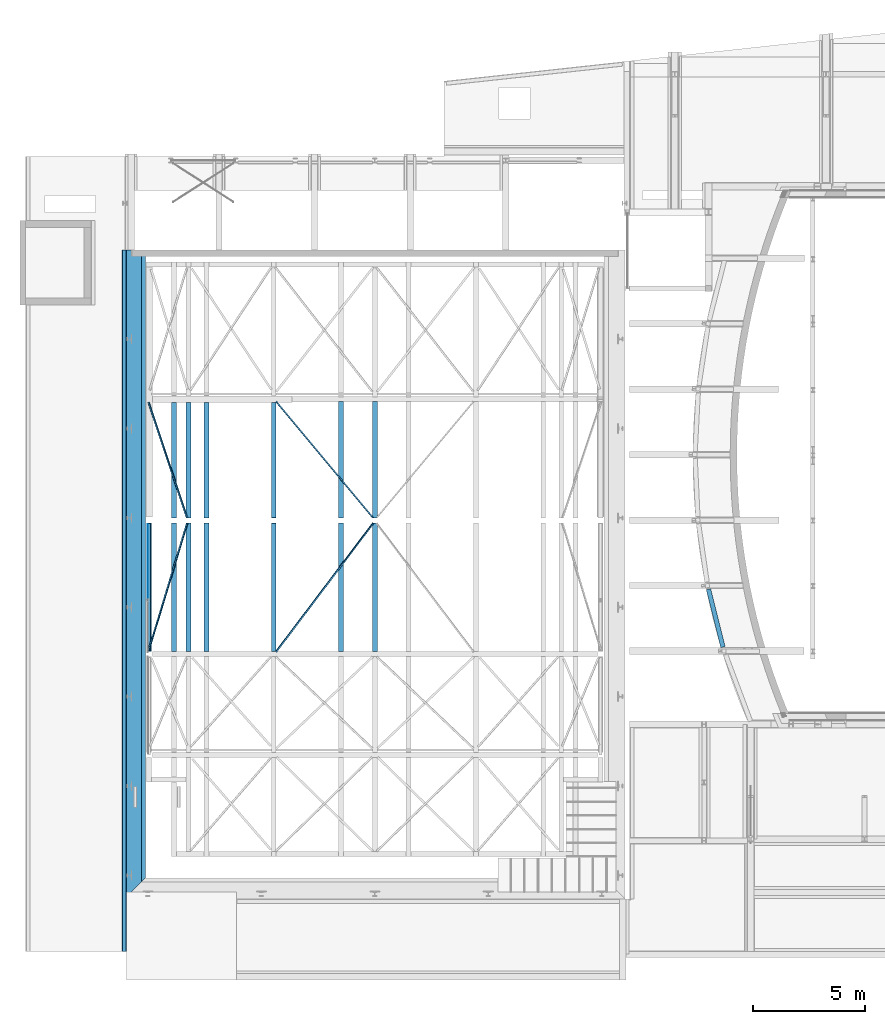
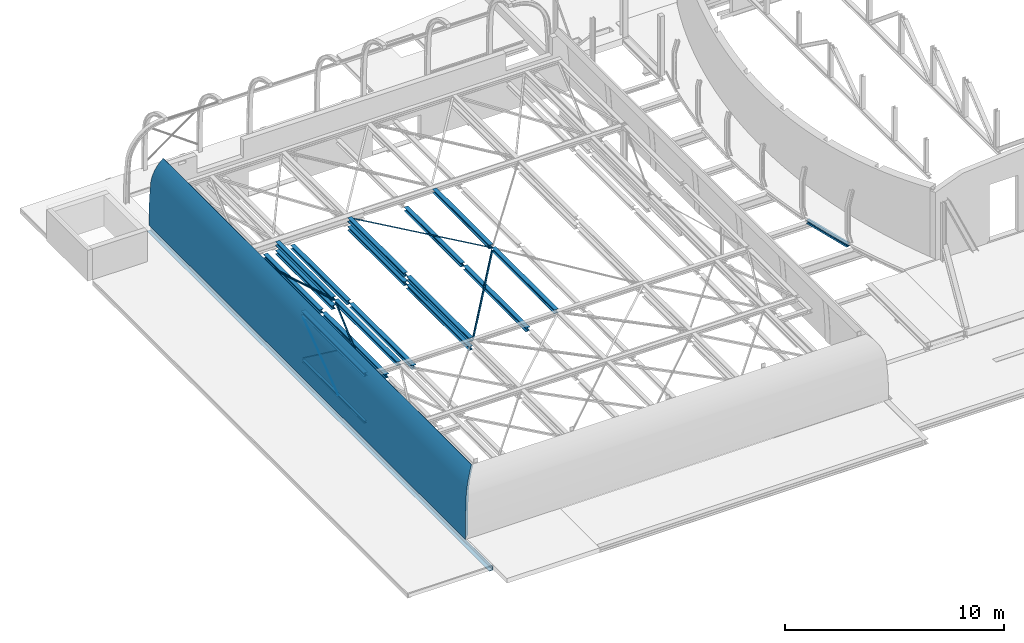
# One storey, part 14 of 38: 26 beams.
"""IFC2X3 building model written with IfcOpenShell, lengths in millimetres."""

import ifcopenshell
import ifcopenshell.guid

model = None  # the IFC model being written
_history = None  # IfcOwnerHistory: only IFC2X3 demands one
_inside = {}  # id of a spatial element -> (the spatial element, [elements in it])
_under = {}  # id of a project, library or spatial element -> (it, [spatial elements below it])
_declared = {}  # id of a project -> (the project, [libraries it declares])
_typed = {}  # id of a type object -> (the type object, [elements of that type])
_made_of = {}  # id of a material, layer set ... -> (it, [elements and type objects made of it])


def new_model(schema):
    """Start an empty IFC model of exactly this schema.

    Asked for "IFC4X3", IfcOpenShell would pick the latest addendum, in which some entities
    have other attributes; the version numbers below select the first issue.
    IFC2X3 requires an IfcOwnerHistory on every rooted entity: one is made here for all.
    """
    global model, _history
    if schema == "IFC4X3":
        model = ifcopenshell.file(schema_version=(4, 3, 0, 0))
    else:
        model = ifcopenshell.file(schema=schema)
    _inside.clear()
    _under.clear()
    _declared.clear()
    _typed.clear()
    _made_of.clear()
    _history = None
    if model.schema == "IFC2X3":
        org = make("IfcOrganization", Name="unknown")
        user = make(
            "IfcPersonAndOrganization",
            ThePerson=make("IfcPerson", FamilyName="unknown"),
            TheOrganization=org,
        )
        app = make(
            "IfcApplication",
            ApplicationDeveloper=org,
            Version="unknown",
            ApplicationFullName="unknown",
            ApplicationIdentifier="unknown",
        )
        _history = make(
            "IfcOwnerHistory",
            OwningUser=user,
            OwningApplication=app,
            ChangeAction="ADDED",
            CreationDate=0,
        )
    return model


def make(cls, **values):
    """One entity of the class cls with the attributes given. An attribute that is None is left unset."""
    return model.create_entity(
        cls, **{name: value for name, value in values.items() if value is not None}
    )


def entity(cls, *values):
    """Any entity or typed value of the class cls, its attributes in the order of the schema. None: left unset."""
    e = model.create_entity(cls)
    for i, value in enumerate(values):
        if value is not None:
            e[i] = value
    return e


def rooted(cls, **values):
    """An entity with a GlobalId (a new one), such as an element, a storey or a relation."""
    return make(cls, GlobalId=ifcopenshell.guid.new(), OwnerHistory=_history, **values)


def si_unit(unit_type, name, prefix=None):
    """IfcSIUnit, for example si_unit("LENGTHUNIT", "METRE", prefix="MILLI")."""
    return make("IfcSIUnit", UnitType=unit_type, Prefix=prefix, Name=name)


def converted_unit(unit_type, name, factor, base, dimensions=None, offset=None):
    """IfcConversionBasedUnit, such as the inch: factor (a typed value) times the base unit."""
    return make(
        "IfcConversionBasedUnit"
        if offset is None
        else "IfcConversionBasedUnitWithOffset",
        ConversionOffset=offset,
        Dimensions=None
        if dimensions is None
        else entity("IfcDimensionalExponents", *dimensions),
        UnitType=unit_type,
        Name=name,
        ConversionFactor=make(
            "IfcMeasureWithUnit", ValueComponent=factor, UnitComponent=base
        ),
    )


def derived_unit(unit_type, elements):
    """IfcDerivedUnit: a product of units, each with its exponent."""
    return make(
        "IfcDerivedUnit",
        Elements=[
            make("IfcDerivedUnitElement", Unit=unit, Exponent=power)
            for unit, power in elements
        ],
        UnitType=unit_type,
    )


def assignment(units):
    """IfcUnitAssignment: the units of a project."""
    return None if units is None else make("IfcUnitAssignment", Units=units)


def point(xyz):
    """IfcCartesianPoint."""
    return None if xyz is None else make("IfcCartesianPoint", Coordinates=xyz)


def direction(xyz):
    """IfcDirection."""
    return None if xyz is None else make("IfcDirection", DirectionRatios=xyz)


def frame(location, z_axis=None, x_axis=None):
    """IfcAxis2Placement3D, a coordinate frame: its origin and axes. An axis left out is left unset."""
    return make(
        "IfcAxis2Placement3D",
        Location=point(location),
        Axis=direction(z_axis),
        RefDirection=direction(x_axis),
    )


def frame_2d(location, x_axis=None):
    """IfcAxis2Placement2D, a coordinate frame in the plane: its origin and x axis."""
    return make(
        "IfcAxis2Placement2D", Location=point(location), RefDirection=direction(x_axis)
    )


def origin():
    """The frame at (0, 0, 0) with its axes left unset."""
    return frame((0.0, 0.0, 0.0))


def origin_2d_with_axis():
    """The frame at (0, 0) in the plane with the x axis (1, 0) written out."""
    return frame_2d((0.0, 0.0), x_axis=(1.0, 0.0))


def place(relative_to, where):
    """IfcLocalPlacement: puts the frame where relative to a parent placement (None: the world)."""
    return make(
        "IfcLocalPlacement", PlacementRelTo=relative_to, RelativePlacement=where
    )


def context(
    kind, dimensions, precision=None, world=None, true_north=None, identifier=None
):
    """IfcGeometricRepresentationContext, for example the 3D "Model" context."""
    return make(
        "IfcGeometricRepresentationContext",
        ContextIdentifier=identifier,
        ContextType=kind,
        CoordinateSpaceDimension=dimensions,
        Precision=precision,
        WorldCoordinateSystem=world,
        TrueNorth=true_north,
    )


def subcontext(parent, identifier, kind, view, scale=None):
    """IfcGeometricRepresentationSubContext, for example "Body" below "Model"."""
    return make(
        "IfcGeometricRepresentationSubContext",
        ContextIdentifier=identifier,
        ContextType=kind,
        ParentContext=parent,
        TargetScale=scale,
        TargetView=view,
    )


def project(units=None, contexts=None):
    """IfcProject with its units and contexts."""
    return rooted(
        "IfcProject",
        Name="project",
        RepresentationContexts=contexts,
        UnitsInContext=assignment(units),
    )


def spatial(cls, under=None, at=None, **own):
    """A site, building, storey or space (cls), placed at a placement, below another one or the project."""
    s = rooted(cls, ObjectPlacement=at, **own)
    if under is not None:
        _under.setdefault(under.id(), (under, []))[1].append(s)
    return s


def polyline(points):
    """IfcPolyline through the points."""
    return make("IfcPolyline", Points=[point(p) for p in points])


def circle_curve(where, radius):
    """IfcCircle in the frame where."""
    return make("IfcCircle", Position=where, Radius=radius)


def parameter(value):
    """IfcParameterValue: where a trimmed curve begins or ends, as a parameter of its basis curve."""
    return model.create_entity("IfcParameterValue", value)


def trimmed(basis, trim1, trim2, sense, master):
    """IfcTrimmedCurve: the piece of a basis curve between two trims."""
    return make(
        "IfcTrimmedCurve",
        BasisCurve=basis,
        Trim1=trim1,
        Trim2=trim2,
        SenseAgreement=sense,
        MasterRepresentation=master,
    )


def segment(curve, same_sense, transition):
    """IfcCompositeCurveSegment."""
    return make(
        "IfcCompositeCurveSegment",
        Transition=transition,
        SameSense=same_sense,
        ParentCurve=curve,
    )


def composite_curve(segments, self_intersect=None):
    """IfcCompositeCurve: segments joined end to end."""
    return make("IfcCompositeCurve", Segments=segments, SelfIntersect=self_intersect)


def profile(cls, at=None, kind="AREA", **sizes):
    """A parametric profile (cls). Its sizes go by their IFC names, for example OverallWidth=200.0."""
    return make(cls, ProfileType=kind, Position=at, **sizes)


def rectangle(**sizes):
    """IfcRectangleProfileDef."""
    return profile("IfcRectangleProfileDef", **sizes)


def i_section(**sizes):
    """IfcIShapeProfileDef."""
    return profile("IfcIShapeProfileDef", **sizes)


def outline(outer, holes=None, kind="AREA"):
    """IfcArbitraryClosedProfileDef: a profile drawn as a closed curve; with holes, ...WithVoids."""
    if holes is None:
        return make("IfcArbitraryClosedProfileDef", ProfileType=kind, OuterCurve=outer)
    return make(
        "IfcArbitraryProfileDefWithVoids",
        ProfileType=kind,
        OuterCurve=outer,
        InnerCurves=holes,
    )


def extrude(swept, where, along, depth):
    """IfcExtrudedAreaSolid: the profile swept, set in the frame where, extruded along a direction by depth."""
    return make(
        "IfcExtrudedAreaSolid",
        SweptArea=swept,
        Position=where,
        ExtrudedDirection=direction(along),
        Depth=depth,
    )


def clip(a, b, op="DIFFERENCE"):
    """IfcBooleanClippingResult: the solid a cut by the half space b."""
    return make(
        "IfcBooleanClippingResult", Operator=op, FirstOperand=a, SecondOperand=b
    )


def halfspace(plane, agree):
    """IfcHalfSpaceSolid: all space on one side of the plane z = 0 of the frame plane."""
    return make(
        "IfcHalfSpaceSolid",
        BaseSurface=make("IfcPlane", Position=plane),
        AgreementFlag=agree,
    )


def shape(context_of_items, identifier, shape_type, items):
    """IfcShapeRepresentation: the items that make up one representation, for example the "Body"."""
    return make(
        "IfcShapeRepresentation",
        ContextOfItems=context_of_items,
        RepresentationIdentifier=identifier,
        RepresentationType=shape_type,
        Items=items,
    )


def material(Name=None, Category=None):
    """IfcMaterial."""
    return make("IfcMaterial", Name=Name, Category=Category)


def made_of(thing, what):
    """Note that an element or type object is made of a material, layer set ...; save() writes the relation."""
    if what is not None:
        _made_of.setdefault(what.id(), (what, []))[1].append(thing)
    return thing


def type_object(cls, material=None, **own):
    """A type object (cls), such as IfcWallType, which elements share."""
    return made_of(rooted(cls, **own), material)


def element(
    cls,
    number,
    at=None,
    inside=None,
    cuts=None,
    type_object=None,
    material=None,
    context=None,
    identifier="Body",
    shape_type=None,
    held_by="IfcProductDefinitionShape",
    body=None,
    shapes=None,
    **own,
):
    """One element of the class cls, such as IfcWall. Its Tag is "e" and its number.

    at: its placement. inside: the storey or other place that contains it. cuts: it is an
    opening in that element (IfcRelVoidsElement). A single representation is given by context,
    identifier, shape_type and body (its items); several are given by shapes. held_by: the class
    of the entity that holds the representations. save() writes the other relations.
    """
    e = rooted(cls, Tag="e%d" % number, ObjectPlacement=at, **own)
    if body is not None:
        shapes = [shape(context, identifier, shape_type, body)]
    if shapes is not None:
        e.Representation = make(held_by, Representations=shapes)
    if inside is not None:
        _inside.setdefault(inside.id(), (inside, []))[1].append(e)
    if cuts is not None:
        rooted(
            "IfcRelVoidsElement", RelatingBuildingElement=cuts, RelatedOpeningElement=e
        )
    if type_object is not None:
        _typed.setdefault(type_object.id(), (type_object, []))[1].append(e)
    return made_of(e, material)


def aggregate(whole, parts):
    """IfcRelAggregates: a whole, such as a stair, and the parts it consists of."""
    return rooted("IfcRelAggregates", RelatingObject=whole, RelatedObjects=parts)


def save(model, path):
    """Write the relations noted so far, then the file.

    IfcRelAggregates (storeys below a building ...), IfcRelContainedInSpatialStructure (elements
    in a storey), IfcRelDefinesByType, IfcRelAssociatesMaterial and IfcRelDeclares: one each for
    every whole, place, type object, material and project.
    """
    for whole, parts in _under.values():
        aggregate(whole, parts)
    for where, things in _inside.values():
        rooted(
            "IfcRelContainedInSpatialStructure",
            RelatedElements=things,
            RelatingStructure=where,
        )
    for kind, things in _typed.values():
        rooted("IfcRelDefinesByType", RelatedObjects=things, RelatingType=kind)
    for what, things in _made_of.values():
        rooted("IfcRelAssociatesMaterial", RelatedObjects=things, RelatingMaterial=what)
    for by, libraries in _declared.values():
        rooted("IfcRelDeclares", RelatingContext=by, RelatedDefinitions=libraries)
    model.write(path)


model = new_model("IFC2X3")

# Units and contexts
model_context = context("Model", 3, precision=0.01, world=origin(), true_north=direction((6.12303176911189e-17, 1.0)))
body_context = subcontext(model_context, "Body", "Model", "MODEL_VIEW")
ifc_project = project(units=[si_unit("LENGTHUNIT", "METRE", prefix="MILLI"), si_unit("AREAUNIT", "SQUARE_METRE", prefix="MILLI"), si_unit("VOLUMEUNIT", "CUBIC_METRE"), converted_unit("PLANEANGLEUNIT", "DEGREE", entity("IfcRatioMeasure", 0.0174532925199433), si_unit("PLANEANGLEUNIT", "RADIAN"), dimensions=[0, 0, 0, 0, 0, 0, 0]), si_unit("MASSUNIT", "GRAM", prefix="KILO"), derived_unit("MASSDENSITYUNIT", [(si_unit("MASSUNIT", "GRAM", prefix="KILO"), 1), (si_unit("LENGTHUNIT", "METRE"), -3)]), derived_unit("MOMENTOFINERTIAUNIT", [(si_unit("LENGTHUNIT", "METRE"), 4)]), si_unit("TIMEUNIT", "SECOND"), si_unit("FREQUENCYUNIT", "HERTZ"), si_unit("THERMODYNAMICTEMPERATUREUNIT", "DEGREE_CELSIUS"), derived_unit("THERMALTRANSMITTANCEUNIT", [(si_unit("MASSUNIT", "GRAM", prefix="KILO"), 1), (si_unit("THERMODYNAMICTEMPERATUREUNIT", "KELVIN"), -1), (si_unit("TIMEUNIT", "SECOND"), -3)]), derived_unit("VOLUMETRICFLOWRATEUNIT", [(si_unit("LENGTHUNIT", "METRE"), 3), (si_unit("TIMEUNIT", "SECOND"), -1)]), si_unit("ELECTRICCURRENTUNIT", "AMPERE"), si_unit("ELECTRICVOLTAGEUNIT", "VOLT"), si_unit("POWERUNIT", "WATT"), si_unit("FORCEUNIT", "NEWTON", prefix="KILO"), si_unit("ILLUMINANCEUNIT", "LUX"), si_unit("LUMINOUSFLUXUNIT", "LUMEN"), si_unit("LUMINOUSINTENSITYUNIT", "CANDELA"), derived_unit("USERDEFINED", [(si_unit("MASSUNIT", "GRAM", prefix="KILO"), -1), (si_unit("LENGTHUNIT", "METRE"), -2), (si_unit("TIMEUNIT", "SECOND"), 3), (si_unit("LUMINOUSFLUXUNIT", "LUMEN"), 1)]), derived_unit("LINEARVELOCITYUNIT", [(si_unit("LENGTHUNIT", "METRE"), 1), (si_unit("TIMEUNIT", "SECOND"), -1)]), si_unit("PRESSUREUNIT", "PASCAL"), derived_unit("USERDEFINED", [(si_unit("LENGTHUNIT", "METRE"), -2), (si_unit("MASSUNIT", "GRAM", prefix="KILO"), 1), (si_unit("TIMEUNIT", "SECOND"), -2)]), derived_unit("LINEARFORCEUNIT", [(si_unit("MASSUNIT", "GRAM", prefix="KILO"), 1), (si_unit("LENGTHUNIT", "METRE"), 1), (si_unit("TIMEUNIT", "SECOND"), -2), (si_unit("LENGTHUNIT", "METRE"), -1)]), derived_unit("PLANARFORCEUNIT", [(si_unit("MASSUNIT", "GRAM", prefix="KILO"), 1), (si_unit("LENGTHUNIT", "METRE"), 1), (si_unit("TIMEUNIT", "SECOND"), -2), (si_unit("LENGTHUNIT", "METRE"), -2)])], contexts=[model_context])

# Site, building, storey
site_placement = place(None, origin())
site = spatial("IfcSite", under=ifc_project, at=site_placement, Name="Theater aan de Parade", CompositionType="ELEMENT")
building_placement = place(site_placement, origin())
building = spatial("IfcBuilding", under=site, at=building_placement, Name="Theater aan de Parade", CompositionType="ELEMENT")
storey_placement = place(building_placement, frame((0.0, 0.0, 12480.0)))
storey = spatial("IfcBuildingStorey", under=building, at=storey_placement, Name="03 derde verdieping", CompositionType="ELEMENT", Elevation=12480.0)

# Beams
ifc_material_1 = material(Name="00_PBT_MAT_beton prefab")
beam_type_1 = type_object("IfcBeamType", Name="28_PBT_SF_paradezaal_dakboog:28_PBT_SF_paradezaal_dakboog", PredefinedType="NOTDEFINED")
beam_1_placement = place(storey_placement, frame((15253.8570025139, 41573.308327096, 0.0), z_axis=(0.0, 0.0, 1.0), x_axis=(0.0, -1.0, 0.0)))
element("IfcBeam", 1, at=beam_1_placement, inside=storey, type_object=beam_type_1, material=ifc_material_1, Name="28_PBT_SF_paradezaal_dakboog:28_PBT_SF_paradezaal_dakboog", ObjectType="28_PBT_SF_paradezaal_dakboog:28_PBT_SF_paradezaal_dakboog", context=body_context, shape_type="Clipping", body=[
    clip(extrude(outline(composite_curve([segment(polyline([(1170.62635842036, -348.276069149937), (1510.62635842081, -348.276069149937)]), True, "CONTINUOUS"), segment(polyline([(1510.62635842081, -348.276069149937), (1510.62635842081, -48.2751058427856)]), True, "CONTINUOUS"), segment(polyline([(1510.62635842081, -48.2751058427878), (1170.62635842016, -48.2751058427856)]), True, "CONTINUOUS"), segment(trimmed(circle_curve(frame_2d((1120.52725132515, 19571.6655062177), x_axis=(0.00255347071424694, -0.999996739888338)), 19620.0045754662), [parameter(354.168454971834)], [parameter(0.0)], True, "PARAMETER"), False, "CONTINUOUS"), segment(trimmed(circle_curve(frame_2d((-568.073123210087, 1483.66591109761), x_axis=(-0.174917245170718, -0.984583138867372)), 1457.97390754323), [parameter(317.92029525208)], [parameter(0.0)], True, "PARAMETER"), False, "CONTINUOUS"), segment(polyline([(-1719.3736415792, 589.129700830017), (-1956.27099188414, 405.065458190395)]), True, "CONTINUOUS"), segment(trimmed(circle_curve(frame_2d((-568.073123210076, 1483.66591109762), x_axis=(-0.789657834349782, -0.613547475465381)), 1757.97390754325), [parameter(0.0)], [parameter(42.4704148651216)], True, "PARAMETER"), True, "CONTINUOUS"), segment(trimmed(circle_curve(frame_2d((1120.52725132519, 19571.6655062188), x_axis=(-0.0996129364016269, -0.995026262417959)), 19920.0045754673), [parameter(0.0)], [parameter(5.86098196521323)], True, "PARAMETER"), True, "CONTINUOUS")], self_intersect=False)), frame((0.0, 47.6858545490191, 1190.62635842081), z_axis=(1.0, 0.0, 0.0), x_axis=(0.0, 0.0, -1.0)), (0.0, 0.0, 1.0), 28904.6717719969), halfspace(frame((28160.1492772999, 443.932280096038, 4340.0), z_axis=(0.707106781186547, 0.707106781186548, 0.0), x_axis=(-0.707106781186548, 0.707106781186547, 0.0)), False)),
])
ifc_material_2 = material(Name="00_PBT_MAT_staal_S355")
beam_type_2 = type_object("IfcBeamType", Name="28_PBT_SF_staal_H-profiel:S355_HE220A", PredefinedType="NOTDEFINED")
beam_2_placement = place(storey_placement, frame((16053.8570032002, 29408.2922984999, 1930.0), z_axis=(0.0, 0.0, 1.0), x_axis=(0.0, -1.0, 0.0)))
element("IfcBeam", 2, at=beam_2_placement, inside=storey, type_object=beam_type_2, material=ifc_material_2, Name="28_PBT_SF_staal_H-profiel:S355_HE220A", ObjectType="28_PBT_SF_staal_H-profiel:S355_HE220A", context=body_context, shape_type="SweptSolid", body=[
    extrude(i_section(OverallWidth=220.0, OverallDepth=210.0, WebThickness=7.00000000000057, FlangeThickness=10.9999999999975, FilletRadius=18.0000000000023, at=frame_2d((0.0, -1.08002495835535e-12), x_axis=(0.0, 1.0))), frame((0.0, 0.0, -105.0), z_axis=(1.0, 0.0, 0.0), x_axis=(0.0, 0.0, -1.0)), (0.0, 0.0, 1.0), 5729.99999999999),
])
beam_3_placement = place(storey_placement, frame((17801.8563463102, 34768.2922984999, 1930.0), z_axis=(0.0, 0.0, 1.0), x_axis=(0.0, -1.0, 0.0)))
element("IfcBeam", 3, at=beam_3_placement, inside=storey, type_object=beam_type_2, material=ifc_material_2, Name="28_PBT_SF_staal_H-profiel:S355_HE220A", ObjectType="28_PBT_SF_staal_H-profiel:S355_HE220A", context=body_context, shape_type="SweptSolid", body=[
    extrude(i_section(OverallWidth=220.0, OverallDepth=210.0, WebThickness=7.00000000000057, FlangeThickness=10.9999999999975, FilletRadius=18.0000000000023, at=frame_2d((0.0, 1.08002495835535e-12), x_axis=(0.0, 1.0))), frame((0.0, 0.0, -105.0), z_axis=(1.0, 0.0, 0.0), x_axis=(0.0, 0.0, -1.0)), (0.0, 0.0, 1.0), 5140.00000000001),
])
beam_4_placement = place(storey_placement, frame((17801.8563463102, 29408.2922984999, 1930.0), z_axis=(0.0, 0.0, 1.0), x_axis=(0.0, -1.0, 0.0)))
element("IfcBeam", 4, at=beam_4_placement, inside=storey, type_object=beam_type_2, material=ifc_material_2, Name="28_PBT_SF_staal_H-profiel:S355_HE220A", ObjectType="28_PBT_SF_staal_H-profiel:S355_HE220A", context=body_context, shape_type="SweptSolid", body=[
    extrude(i_section(OverallWidth=220.0, OverallDepth=210.0, WebThickness=7.00000000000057, FlangeThickness=10.9999999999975, FilletRadius=18.0000000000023, at=frame_2d((0.0, 1.08002495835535e-12), x_axis=(0.0, 1.0))), frame((0.0, 0.0, -105.0), z_axis=(1.0, 0.0, 0.0), x_axis=(0.0, 0.0, -1.0)), (0.0, 0.0, 1.0), 5729.99999999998),
])
beam_5_placement = place(storey_placement, frame((21603.8563463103, 34768.2922984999, 1930.0), z_axis=(0.0, 0.0, 1.0), x_axis=(0.0, -1.0, 0.0)))
element("IfcBeam", 5, at=beam_5_placement, inside=storey, type_object=beam_type_2, material=ifc_material_2, Name="28_PBT_SF_staal_H-profiel:S355_HE220A", ObjectType="28_PBT_SF_staal_H-profiel:S355_HE220A", context=body_context, shape_type="SweptSolid", body=[
    extrude(i_section(OverallWidth=219.999999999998, OverallDepth=210.0, WebThickness=7.00000000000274, FlangeThickness=10.9999999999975, FilletRadius=18.0000000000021, at=frame_2d((0.0, 2.16715534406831e-12), x_axis=(0.0, 1.0))), frame((0.0, 0.0, -105.0), z_axis=(1.0, 0.0, 0.0), x_axis=(0.0, 0.0, -1.0)), (0.0, 0.0, 1.0), 5110.00000000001),
])
beam_6_placement = place(storey_placement, frame((21603.8563463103, 29378.2922984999, 1930.0), z_axis=(0.0, 0.0, 1.0), x_axis=(0.0, -1.0, 0.0)))
element("IfcBeam", 6, at=beam_6_placement, inside=storey, type_object=beam_type_2, material=ifc_material_2, Name="28_PBT_SF_staal_H-profiel:S355_HE220A", ObjectType="28_PBT_SF_staal_H-profiel:S355_HE220A", context=body_context, shape_type="SweptSolid", body=[
    extrude(i_section(OverallWidth=220.000000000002, OverallDepth=210.0, WebThickness=7.00000000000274, FlangeThickness=10.9999999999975, FilletRadius=18.0000000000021, at=frame_2d((0.0, -2.16715534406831e-12), x_axis=(0.0, 1.0))), frame((0.0, 0.0, -105.0), z_axis=(1.0, 0.0, 0.0), x_axis=(0.0, 0.0, -1.0)), (0.0, 0.0, 1.0), 5699.99999999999),
])
beam_7_placement = place(storey_placement, frame((26103.8570025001, 34808.2922984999, 1930.0), z_axis=(0.0, 0.0, 1.0), x_axis=(0.0, -1.0, 0.0)))
element("IfcBeam", 7, at=beam_7_placement, inside=storey, type_object=beam_type_2, material=ifc_material_2, Name="28_PBT_SF_staal_H-profiel:S355_HE220A", ObjectType="28_PBT_SF_staal_H-profiel:S355_HE220A", context=body_context, shape_type="SweptSolid", body=[
    extrude(i_section(OverallWidth=219.999999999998, OverallDepth=210.0, WebThickness=7.00000000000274, FlangeThickness=10.9999999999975, FilletRadius=18.0000000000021, at=frame_2d((0.0, -6.50146603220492e-12), x_axis=(0.0, 1.0))), frame((0.0, 0.0, -105.0), z_axis=(1.0, 0.0, 0.0), x_axis=(0.0, 0.0, -1.0)), (0.0, 0.0, 1.0), 5180.0),
])
beam_8_placement = place(storey_placement, frame((26103.8570025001, 29408.2922984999, 1930.0), z_axis=(0.0, 0.0, 1.0), x_axis=(0.0, -1.0, 0.0)))
element("IfcBeam", 8, at=beam_8_placement, inside=storey, type_object=beam_type_2, material=ifc_material_2, Name="28_PBT_SF_staal_H-profiel:S355_HE220A", ObjectType="28_PBT_SF_staal_H-profiel:S355_HE220A", context=body_context, shape_type="SweptSolid", body=[
    extrude(i_section(OverallWidth=220.000000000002, OverallDepth=210.0, WebThickness=7.00000000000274, FlangeThickness=10.9999999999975, FilletRadius=18.0000000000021, at=frame_2d((0.0, 2.16715534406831e-12), x_axis=(0.0, 1.0))), frame((0.0, 0.0, -105.0), z_axis=(1.0, 0.0, 0.0), x_axis=(0.0, 0.0, -1.0)), (0.0, 0.0, 1.0), 5729.99999999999),
])
beam_9_placement = place(storey_placement, frame((24603.8563463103, 34808.2922984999, 1930.0), z_axis=(0.0, 0.0, 1.0), x_axis=(0.0, -1.0, 0.0)))
element("IfcBeam", 9, at=beam_9_placement, inside=storey, type_object=beam_type_2, material=ifc_material_2, Name="28_PBT_SF_staal_H-profiel:S355_HE220A", ObjectType="28_PBT_SF_staal_H-profiel:S355_HE220A", context=body_context, shape_type="SweptSolid", body=[
    extrude(i_section(OverallWidth=219.999999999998, OverallDepth=210.0, WebThickness=7.00000000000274, FlangeThickness=10.9999999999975, FilletRadius=18.0000000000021, at=frame_2d((-2.16715534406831e-12, 2.16715534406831e-12), x_axis=(0.0, 1.0))), frame((0.0, 0.0, -585.0), z_axis=(1.0, 0.0, 0.0), x_axis=(0.0, 0.0, -1.0)), (0.0, 0.0, 1.0), 5180.0),
])
beam_10_placement = place(storey_placement, frame((24603.8563463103, 29408.2922984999, 1930.0), z_axis=(0.0, 0.0, 1.0), x_axis=(0.0, -1.0, 0.0)))
element("IfcBeam", 10, at=beam_10_placement, inside=storey, type_object=beam_type_2, material=ifc_material_2, Name="28_PBT_SF_staal_H-profiel:S355_HE220A", ObjectType="28_PBT_SF_staal_H-profiel:S355_HE220A", context=body_context, shape_type="SweptSolid", body=[
    extrude(i_section(OverallWidth=220.000000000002, OverallDepth=210.0, WebThickness=7.00000000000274, FlangeThickness=10.9999999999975, FilletRadius=18.0000000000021, at=frame_2d((-2.16715534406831e-12, -2.16715534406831e-12), x_axis=(0.0, 1.0))), frame((0.0, 0.0, -585.0), z_axis=(1.0, 0.0, 0.0), x_axis=(0.0, 0.0, -1.0)), (0.0, 0.0, 1.0), 5729.99999999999),
])
beam_11_placement = place(storey_placement, frame((18603.8563463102, 34768.2922984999, 1930.0), z_axis=(0.0, 0.0, 1.0), x_axis=(0.0, -1.0, 0.0)))
element("IfcBeam", 11, at=beam_11_placement, inside=storey, type_object=beam_type_2, material=ifc_material_2, Name="28_PBT_SF_staal_H-profiel:S355_HE220A", ObjectType="28_PBT_SF_staal_H-profiel:S355_HE220A", context=body_context, shape_type="SweptSolid", body=[
    extrude(i_section(OverallWidth=220.0, OverallDepth=210.0, WebThickness=7.00000000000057, FlangeThickness=10.9999999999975, FilletRadius=18.0000000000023, at=frame_2d((-2.16715534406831e-12, -1.08002495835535e-12), x_axis=(0.0, 1.0))), frame((0.0, 0.0, -585.0), z_axis=(1.0, 0.0, 0.0), x_axis=(0.0, 0.0, -1.0)), (0.0, 0.0, 1.0), 5140.00000000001),
])
beam_12_placement = place(storey_placement, frame((18603.8563463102, 29408.2922984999, 1930.0), z_axis=(0.0, 0.0, 1.0), x_axis=(0.0, -1.0, 0.0)))
element("IfcBeam", 12, at=beam_12_placement, inside=storey, type_object=beam_type_2, material=ifc_material_2, Name="28_PBT_SF_staal_H-profiel:S355_HE220A", ObjectType="28_PBT_SF_staal_H-profiel:S355_HE220A", context=body_context, shape_type="SweptSolid", body=[
    extrude(i_section(OverallWidth=220.0, OverallDepth=210.0, WebThickness=7.00000000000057, FlangeThickness=10.9999999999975, FilletRadius=18.0000000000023, at=frame_2d((-2.16715534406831e-12, 1.08002495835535e-12), x_axis=(0.0, 1.0))), frame((0.0, 0.0, -585.0), z_axis=(1.0, 0.0, 0.0), x_axis=(0.0, 0.0, -1.0)), (0.0, 0.0, 1.0), 5729.99999999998),
])
beam_13_placement = place(storey_placement, frame((17163.8569463, 34768.2922984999, 1930.0), z_axis=(0.0, 0.0, 1.0), x_axis=(0.0, -1.0, 0.0)))
element("IfcBeam", 13, at=beam_13_placement, inside=storey, type_object=beam_type_2, material=ifc_material_2, Name="28_PBT_SF_staal_H-profiel:S355_HE220A", ObjectType="28_PBT_SF_staal_H-profiel:S355_HE220A", context=body_context, shape_type="SweptSolid", body=[
    extrude(i_section(OverallWidth=220.0, OverallDepth=210.0, WebThickness=7.00000000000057, FlangeThickness=10.9999999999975, FilletRadius=18.0000000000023, at=frame_2d((-2.16715534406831e-12, -3.24718030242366e-12), x_axis=(0.0, 1.0))), frame((0.0, 0.0, -585.0), z_axis=(1.0, 0.0, 0.0), x_axis=(0.0, 0.0, -1.0)), (0.0, 0.0, 1.0), 5140.00000000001),
])
beam_14_placement = place(storey_placement, frame((17163.8569463, 29408.2922984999, 1930.0), z_axis=(0.0, 0.0, 1.0), x_axis=(0.0, -1.0, 0.0)))
element("IfcBeam", 14, at=beam_14_placement, inside=storey, type_object=beam_type_2, material=ifc_material_2, Name="28_PBT_SF_staal_H-profiel:S355_HE220A", ObjectType="28_PBT_SF_staal_H-profiel:S355_HE220A", context=body_context, shape_type="SweptSolid", body=[
    extrude(i_section(OverallWidth=220.0, OverallDepth=210.0, WebThickness=7.00000000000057, FlangeThickness=10.9999999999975, FilletRadius=18.0000000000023, at=frame_2d((-2.16715534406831e-12, 3.24718030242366e-12), x_axis=(0.0, 1.0))), frame((0.0, 0.0, -585.0), z_axis=(1.0, 0.0, 0.0), x_axis=(0.0, 0.0, -1.0)), (0.0, 0.0, 1.0), 5729.99999999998),
])
beam_15_placement = place(storey_placement, frame((17801.8563463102, 34768.2922984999, 1930.0), z_axis=(0.0, 0.0, 1.0), x_axis=(0.0, -1.0, 0.0)))
element("IfcBeam", 15, at=beam_15_placement, inside=storey, type_object=beam_type_2, material=ifc_material_2, Name="28_PBT_SF_staal_H-profiel:S355_HE220A", ObjectType="28_PBT_SF_staal_H-profiel:S355_HE220A", context=body_context, shape_type="SweptSolid", body=[
    extrude(i_section(OverallWidth=220.0, OverallDepth=210.0, WebThickness=7.00000000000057, FlangeThickness=10.9999999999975, FilletRadius=18.0000000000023, at=frame_2d((-2.16715534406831e-12, 1.08002495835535e-12), x_axis=(0.0, 1.0))), frame((0.0, 0.0, -585.0), z_axis=(1.0, 0.0, 0.0), x_axis=(0.0, 0.0, -1.0)), (0.0, 0.0, 1.0), 5140.00000000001),
])
beam_16_placement = place(storey_placement, frame((21603.8563463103, 34768.2922984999, 1930.0), z_axis=(0.0, 0.0, 1.0), x_axis=(0.0, -1.0, 0.0)))
element("IfcBeam", 16, at=beam_16_placement, inside=storey, type_object=beam_type_2, material=ifc_material_2, Name="28_PBT_SF_staal_H-profiel:S355_HE220A", ObjectType="28_PBT_SF_staal_H-profiel:S355_HE220A", context=body_context, shape_type="SweptSolid", body=[
    extrude(i_section(OverallWidth=219.999999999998, OverallDepth=210.0, WebThickness=7.00000000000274, FlangeThickness=10.9999999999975, FilletRadius=18.0000000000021, at=frame_2d((0.0, 2.16715534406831e-12), x_axis=(0.0, 1.0))), frame((0.0, 0.0, -585.0), z_axis=(1.0, 0.0, 0.0), x_axis=(0.0, 0.0, -1.0)), (0.0, 0.0, 1.0), 5140.00000000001),
])
beam_17_placement = place(storey_placement, frame((21603.8563463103, 29408.2922984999, 1930.0), z_axis=(0.0, 0.0, 1.0), x_axis=(0.0, -1.0, 0.0)))
element("IfcBeam", 17, at=beam_17_placement, inside=storey, type_object=beam_type_2, material=ifc_material_2, Name="28_PBT_SF_staal_H-profiel:S355_HE220A", ObjectType="28_PBT_SF_staal_H-profiel:S355_HE220A", context=body_context, shape_type="SweptSolid", body=[
    extrude(i_section(OverallWidth=220.000000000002, OverallDepth=210.0, WebThickness=7.00000000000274, FlangeThickness=10.9999999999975, FilletRadius=18.0000000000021, at=frame_2d((-2.16715534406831e-12, -2.16715534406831e-12), x_axis=(0.0, 1.0))), frame((0.0, 0.0, -585.0), z_axis=(1.0, 0.0, 0.0), x_axis=(0.0, 0.0, -1.0)), (0.0, 0.0, 1.0), 5729.99999999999),
])
beam_type_3 = type_object("IfcBeamType", Name="28_PBT_SF_staal_H-profiel:S355_HE140A", PredefinedType="NOTDEFINED")
beam_18_placement = place(storey_placement, frame((16053.8570032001, 29378.2922984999, 0.0), z_axis=(0.0, 0.0, 1.0), x_axis=(0.0, -1.0, 0.0)))
element("IfcBeam", 18, at=beam_18_placement, inside=storey, type_object=beam_type_3, material=ifc_material_2, Name="28_PBT_SF_staal_H-profiel:S355_HE140A", ObjectType="28_PBT_SF_staal_H-profiel:S355_HE140A", context=body_context, shape_type="SweptSolid", body=[
    extrude(outline(composite_curve([segment(polyline([(58.0, -70.0), (66.4999999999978, -70.0)]), True, "CONTINUOUS"), segment(polyline([(66.4999999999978, -70.0), (66.4999999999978, 70.0)]), True, "CONTINUOUS"), segment(polyline([(66.4999999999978, 70.0), (58.0, 70.0)]), True, "CONTINUOUS"), segment(polyline([(58.0, 70.0), (58.0, 14.750000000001)]), True, "CONTINUOUS"), segment(trimmed(circle_curve(frame_2d((46.0, 14.7499999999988), x_axis=(1.0, 0.0)), 11.9999999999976), [parameter(269.999999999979)], [parameter(0.0)], True, "PARAMETER"), False, "CONTINUOUS"), segment(polyline([(46.0, 2.75000000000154), (-46.0, 2.75000000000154)]), True, "CONTINUOUS"), segment(trimmed(circle_curve(frame_2d((-46.0, 14.7499999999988), x_axis=(0.0, -1.0)), 11.9999999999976), [parameter(269.999999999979)], [parameter(0.0)], True, "PARAMETER"), False, "CONTINUOUS"), segment(polyline([(-58.0, 14.7500000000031), (-58.0, 70.0)]), True, "CONTINUOUS"), segment(polyline([(-58.0, 70.0), (-66.5000000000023, 70.0)]), True, "CONTINUOUS"), segment(polyline([(-66.5000000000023, 70.0), (-66.5000000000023, -70.0)]), True, "CONTINUOUS"), segment(polyline([(-66.5000000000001, -70.0), (-58.0, -70.0)]), True, "CONTINUOUS"), segment(polyline([(-58.0, -70.0), (-58.0, -14.7499999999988)]), True, "CONTINUOUS"), segment(trimmed(circle_curve(frame_2d((-46.0, -14.7499999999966), x_axis=(-1.0, 0.0)), 11.9999999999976), [parameter(269.999999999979)], [parameter(0.0)], True, "PARAMETER"), False, "CONTINUOUS"), segment(polyline([(-46.0, -2.74999999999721), (46.0, -2.74999999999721)]), True, "CONTINUOUS"), segment(trimmed(circle_curve(frame_2d((46.0, -14.7499999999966), x_axis=(0.0, 1.0)), 11.9999999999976), [parameter(269.999999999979)], [parameter(0.0)], True, "PARAMETER"), False, "CONTINUOUS"), segment(polyline([(58.0, -14.7499999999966), (58.0, -70.0)]), True, "CONTINUOUS")], self_intersect=False)), frame((0.0, 0.0, -846.500000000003), z_axis=(1.0, 0.0, 0.0), x_axis=(0.0, 0.0, -1.0)), (0.0, 0.0, 1.0), 5669.99999999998),
])
beam_type_4 = type_object("IfcBeamType", Name="28_PBT_SF_staal_L-profiel:S355_L200x200x20", PredefinedType="NOTDEFINED")
beam_19_placement = place(storey_placement, frame((14997.0570025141, 41573.3083270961, 0.0), z_axis=(0.0, 0.0, 1.0), x_axis=(0.0, -1.0, 0.0)))
element("IfcBeam", 19, at=beam_19_placement, inside=storey, type_object=beam_type_4, material=ifc_material_2, Name="28_PBT_SF_staal_L-profiel:S355_L200x200x20", ObjectType="28_PBT_SF_staal_L-profiel:S355_L200x200x20", context=body_context, shape_type="SweptSolid", body=[
    extrude(outline(composite_curve([segment(polyline([(64.5555555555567, -124.444444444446), (75.5555555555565, -124.444444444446)]), True, "CONTINUOUS"), segment(polyline([(75.5555555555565, -124.444444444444), (75.5555555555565, 75.5555555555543)]), True, "CONTINUOUS"), segment(polyline([(75.5555555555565, 75.5555555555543), (-124.444444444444, 75.5555555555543)]), True, "CONTINUOUS"), segment(polyline([(-124.444444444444, 75.5555555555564), (-124.444444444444, 64.5555555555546)]), True, "CONTINUOUS"), segment(trimmed(circle_curve(frame_2d((-115.444444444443, 64.5555555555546), x_axis=(-1.0, 0.0)), 8.99999999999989), [parameter(0.0)], [parameter(90.0000000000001)], True, "PARAMETER"), True, "CONTINUOUS"), segment(polyline([(-115.444444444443, 55.5555555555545), (37.5555555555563, 55.5555555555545)]), True, "CONTINUOUS"), segment(trimmed(circle_curve(frame_2d((37.5555555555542, 37.5555555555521), x_axis=(0.0, 1.0)), 18.0000000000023), [parameter(270.000000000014)], [parameter(0.0)], True, "PARAMETER"), False, "CONTINUOUS"), segment(polyline([(55.5555555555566, 37.5555555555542), (55.5555555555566, -115.444444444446)]), True, "CONTINUOUS"), segment(trimmed(circle_curve(frame_2d((64.5555555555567, -115.444444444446), x_axis=(-1.0, 0.0)), 9.00000000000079), [parameter(0.0)], [parameter(90.0000000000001)], True, "PARAMETER"), True, "CONTINUOUS")], self_intersect=False)), frame((0.0, -18.7555555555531, -549.444444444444), z_axis=(1.0, 0.0, 0.0), x_axis=(0.0, 0.0, -1.0)), (0.0, 0.0, 1.0), 31253.9812524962),
])
beam_type_5 = type_object("IfcBeamType", Name="28_PBT_SF_staal_H-profiel:S355_HE200A", PredefinedType="NOTDEFINED")
beam_20_placement = place(storey_placement, frame((40962.3284932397, 26460.1986265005, 0.0), z_axis=(0.0, 0.0, 1.0), x_axis=(0.242544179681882, -0.97014036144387, 0.0)))
element("IfcBeam", 20, at=beam_20_placement, inside=storey, type_object=beam_type_5, material=ifc_material_2, Name="28_PBT_SF_staal_H-profiel:S355_HE200A", ObjectType="28_PBT_SF_staal_H-profiel:S355_HE200A", context=body_context, shape_type="SweptSolid", body=[
    extrude(i_section(OverallWidth=199.999999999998, OverallDepth=190.0, WebThickness=6.49999999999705, FlangeThickness=9.99999999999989, FilletRadius=17.9999999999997, at=frame_2d((-2.16715534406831e-12, 0.0), x_axis=(0.0, 1.0))), frame((0.0, 0.0, -25.0), z_axis=(1.0, 0.0, 0.0), x_axis=(0.0, 0.0, -1.0)), (0.0, 0.0, 1.0), 2660.00000000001),
])
beam_type_6 = type_object("IfcBeamType", Name="28_PBT_SF_staal_L-profiel:S355_L70x70x7", PredefinedType="NOTDEFINED")
beam_21_placement = place(storey_placement, frame((21603.8563463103, 34918.2922984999, 1930.0), z_axis=(0.0, 0.0, 1.0), x_axis=(0.640184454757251, -0.76822123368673, 0.0)))
element("IfcBeam", 21, at=beam_21_placement, inside=storey, type_object=beam_type_6, material=ifc_material_2, Name="28_PBT_SF_staal_L-profiel:S355_L70x70x7", ObjectType="28_PBT_SF_staal_L-profiel:S355_L70x70x7", context=body_context, shape_type="SweptSolid", body=[
    extrude(outline(composite_curve([segment(polyline([(-43.5555555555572, -26.4444444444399), (26.444444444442, -26.4444444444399)]), True, "CONTINUOUS"), segment(polyline([(26.444444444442, -26.4444444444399), (26.444444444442, 43.5555555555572)]), True, "CONTINUOUS"), segment(polyline([(26.444444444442, 43.5555555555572), (23.9444444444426, 43.5555555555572)]), True, "CONTINUOUS"), segment(trimmed(circle_curve(frame_2d((23.9444444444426, 39.0555555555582), x_axis=(0.0, 1.0)), 4.49999999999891), [parameter(0.0)], [parameter(90.0000000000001)], True, "PARAMETER"), True, "CONTINUOUS"), segment(polyline([(19.4444444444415, 39.0555555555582), (19.4444444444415, -10.4444444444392)]), True, "CONTINUOUS"), segment(trimmed(circle_curve(frame_2d((10.4444444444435, -10.4444444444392), x_axis=(1.0, 0.0)), 9.00000000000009), [parameter(270.000000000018)], [parameter(0.0)], True, "PARAMETER"), False, "CONTINUOUS"), segment(polyline([(10.4444444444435, -19.4444444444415), (-39.0555555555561, -19.4444444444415)]), True, "CONTINUOUS"), segment(trimmed(circle_curve(frame_2d((-39.0555555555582, -23.9444444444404), x_axis=(0.0, 1.0)), 4.49999999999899), [parameter(0.0)], [parameter(90.0000000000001)], True, "PARAMETER"), True, "CONTINUOUS"), segment(polyline([(-43.5555555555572, -23.9444444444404), (-43.5555555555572, -26.4444444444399)]), True, "CONTINUOUS")], self_intersect=False)), frame((150.0, 6.74444444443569, -103.555555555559), z_axis=(1.0, 0.0, 0.0), x_axis=(0.0, 0.0, -1.0)), (0.0, 0.0, 1.0), 6729.22512839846),
])
beam_22_placement = place(storey_placement, frame((21603.8563463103, 23568.2922985, 1930.0), z_axis=(0.0, 0.0, 1.0), x_axis=(0.603212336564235, 0.797580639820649, 0.0)))
element("IfcBeam", 22, at=beam_22_placement, inside=storey, type_object=beam_type_6, material=ifc_material_2, Name="28_PBT_SF_staal_L-profiel:S355_L70x70x7", ObjectType="28_PBT_SF_staal_L-profiel:S355_L70x70x7", context=body_context, shape_type="SweptSolid", body=[
    extrude(outline(composite_curve([segment(polyline([(23.9444444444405, -43.5555555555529), (26.4444444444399, -43.5555555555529)]), True, "CONTINUOUS"), segment(polyline([(26.4444444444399, -43.5555555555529), (26.4444444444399, 26.4444444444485)]), True, "CONTINUOUS"), segment(polyline([(26.4444444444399, 26.4444444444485), (-43.5555555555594, 26.4444444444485)]), True, "CONTINUOUS"), segment(polyline([(-43.5555555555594, 26.4444444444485), (-43.5555555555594, 23.9444444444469)]), True, "CONTINUOUS"), segment(trimmed(circle_curve(frame_2d((-39.0555555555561, 23.9444444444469), x_axis=(-1.0, 0.0)), 4.50000000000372), [parameter(0.0)], [parameter(89.9999999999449)], True, "PARAMETER"), True, "CONTINUOUS"), segment(polyline([(-39.0555555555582, 19.4444444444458), (10.4444444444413, 19.4444444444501)]), True, "CONTINUOUS"), segment(trimmed(circle_curve(frame_2d((10.4444444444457, 10.4444444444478), x_axis=(0.0, 1.0)), 8.99999999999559), [parameter(269.999999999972)], [parameter(0.0)], True, "PARAMETER"), False, "CONTINUOUS"), segment(polyline([(19.4444444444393, 10.4444444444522), (19.4444444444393, -39.0555555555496)]), True, "CONTINUOUS"), segment(trimmed(circle_curve(frame_2d((23.9444444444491, -39.0555555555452), x_axis=(-1.0, 0.0)), 4.50000000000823), [parameter(0.0)], [parameter(89.9999999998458)], True, "PARAMETER"), True, "CONTINUOUS")], self_intersect=False)), frame((150.0, -6.74444444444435, -103.555555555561), z_axis=(1.0, 0.0, 0.0), x_axis=(0.0, 0.0, -1.0)), (0.0, 0.0, 1.0), 7160.06071729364),
])
beam_23_placement = place(storey_placement, frame((17803.8570025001, 29518.2922984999, 1930.0), z_axis=(0.0, 0.0, 1.0), x_axis=(-0.28979513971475, -0.957088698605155, 0.0)))
element("IfcBeam", 23, at=beam_23_placement, inside=storey, type_object=beam_type_6, material=ifc_material_2, Name="28_PBT_SF_staal_L-profiel:S355_L70x70x7", ObjectType="28_PBT_SF_staal_L-profiel:S355_L70x70x7", context=body_context, shape_type="SweptSolid", body=[
    extrude(outline(composite_curve([segment(polyline([(23.9444444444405, -43.5555555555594), (26.4444444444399, -43.5555555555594)]), True, "CONTINUOUS"), segment(polyline([(26.4444444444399, -43.5555555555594), (26.4444444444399, 26.4444444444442)]), True, "CONTINUOUS"), segment(polyline([(26.4444444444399, 26.4444444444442), (-43.5555555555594, 26.4444444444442)]), True, "CONTINUOUS"), segment(polyline([(-43.5555555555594, 26.4444444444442), (-43.5555555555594, 23.9444444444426)]), True, "CONTINUOUS"), segment(trimmed(circle_curve(frame_2d((-39.0555555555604, 23.9444444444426), x_axis=(-1.0, 0.0)), 4.5), [parameter(0.0)], [parameter(90.0000000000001)], True, "PARAMETER"), True, "CONTINUOUS"), segment(polyline([(-39.0555555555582, 19.4444444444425), (10.4444444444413, 19.4444444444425)]), True, "CONTINUOUS"), segment(trimmed(circle_curve(frame_2d((10.4444444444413, 10.4444444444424), x_axis=(0.0, 1.0)), 8.99999999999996), [parameter(270.0)], [parameter(0.0)], True, "PARAMETER"), False, "CONTINUOUS"), segment(polyline([(19.4444444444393, 10.4444444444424), (19.4444444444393, -39.0555555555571)]), True, "CONTINUOUS"), segment(trimmed(circle_curve(frame_2d((23.9444444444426, -39.0555555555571), x_axis=(-1.0, 0.0)), 4.50000000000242), [parameter(0.0)], [parameter(89.9999999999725)], True, "PARAMETER"), True, "CONTINUOUS")], self_intersect=False)), frame((150.0, -6.74444444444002, -103.555555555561), z_axis=(1.0, 0.0, 0.0), x_axis=(0.0, 0.0, -1.0)), (0.0, 0.0, 1.0), 5911.28429231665),
])
beam_24_placement = place(storey_placement, frame((17803.8570025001, 29518.2922984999, 1930.0), z_axis=(0.0, 0.0, 1.0), x_axis=(-0.316227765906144, 0.948683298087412, 0.0)))
element("IfcBeam", 24, at=beam_24_placement, inside=storey, type_object=beam_type_6, material=ifc_material_2, Name="28_PBT_SF_staal_L-profiel:S355_L70x70x7", ObjectType="28_PBT_SF_staal_L-profiel:S355_L70x70x7", context=body_context, shape_type="SweptSolid", body=[
    extrude(outline(composite_curve([segment(polyline([(-43.5555555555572, -26.444444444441), (26.444444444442, -26.444444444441)]), True, "CONTINUOUS"), segment(polyline([(26.444444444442, -26.444444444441), (26.444444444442, 43.5555555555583)]), True, "CONTINUOUS"), segment(polyline([(26.444444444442, 43.5555555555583), (23.9444444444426, 43.5555555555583)]), True, "CONTINUOUS"), segment(trimmed(circle_curve(frame_2d((23.9444444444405, 39.0555555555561), x_axis=(0.0, 1.0)), 4.49999999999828), [parameter(0.0)], [parameter(90.0000000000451)], True, "PARAMETER"), True, "CONTINUOUS"), segment(polyline([(19.4444444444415, 39.0555555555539), (19.4444444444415, -10.4444444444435)]), True, "CONTINUOUS"), segment(trimmed(circle_curve(frame_2d((10.4444444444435, -10.4444444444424), x_axis=(1.0, 0.0)), 8.99999999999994), [parameter(270.0)], [parameter(0.0)], True, "PARAMETER"), False, "CONTINUOUS"), segment(polyline([(10.4444444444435, -19.4444444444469), (-39.0555555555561, -19.4444444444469)]), True, "CONTINUOUS"), segment(trimmed(circle_curve(frame_2d((-39.0555555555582, -23.9444444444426), x_axis=(0.0, 1.0)), 4.49999999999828), [parameter(0.0)], [parameter(90.0000000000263)], True, "PARAMETER"), True, "CONTINUOUS"), segment(polyline([(-43.5555555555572, -23.9444444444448), (-43.5555555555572, -26.444444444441)]), True, "CONTINUOUS")], self_intersect=False)), frame((150.0, 6.74444444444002, -103.555555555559), z_axis=(1.0, 0.0, 0.0), x_axis=(0.0, 0.0, -1.0)), (0.0, 0.0, 1.0), 5392.09978808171),
])
ifc_material_3 = material(Name="00_PBT_MAT_staal")
beam_type_7 = type_object("IfcBeamType", Name="28_PBT_SF_staal_strip:strip 6x60", PredefinedType="NOTDEFINED")
beam_25_placement = place(storey_placement, frame((15986.3570032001, 25955.7265325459, -820.6078180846), z_axis=(0.0, -0.595470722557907, 0.803377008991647), x_axis=(0.0, 0.803377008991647, 0.595470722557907)))
element("IfcBeam", 25, at=beam_25_placement, inside=storey, type_object=beam_type_7, material=ifc_material_3, Name="28_PBT_SF_staal_strip:strip 6x60", ObjectType="28_PBT_SF_staal_strip:strip 6x60", context=body_context, shape_type="SweptSolid", body=[
    extrude(rectangle(XDim=60.0, YDim=5.99999999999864, at=frame_2d((8.70414851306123e-13, -2.16560103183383e-12), x_axis=(1.0, 0.0))), frame((139.815246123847, -3.0, 0.0), z_axis=(1.0, 0.0, 0.0), x_axis=(0.0, 0.0, -1.0)), (0.0, 0.0, 1.0), 3980.18475387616),
])
beam_26_placement = place(storey_placement, frame((16001.3570032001, 29476.2608828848, -783.786796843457), z_axis=(0.0, 0.596199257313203, 0.802836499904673), x_axis=(0.0, -0.802836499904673, 0.596199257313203)))
element("IfcBeam", 26, at=beam_26_placement, inside=storey, type_object=beam_type_7, material=ifc_material_3, Name="28_PBT_SF_staal_strip:strip 6x60", ObjectType="28_PBT_SF_staal_strip:strip 6x60", context=body_context, shape_type="SweptSolid", body=[
    extrude(rectangle(XDim=60.0000000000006, YDim=6.0000000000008, at=origin_2d_with_axis()), frame((178.995216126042, -3.0, 0.0), z_axis=(1.0, 0.0, 0.0), x_axis=(0.0, 0.0, -1.0)), (0.0, 0.0, 1.0), 3964.14088104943),
])

save(model, "model.ifc")
